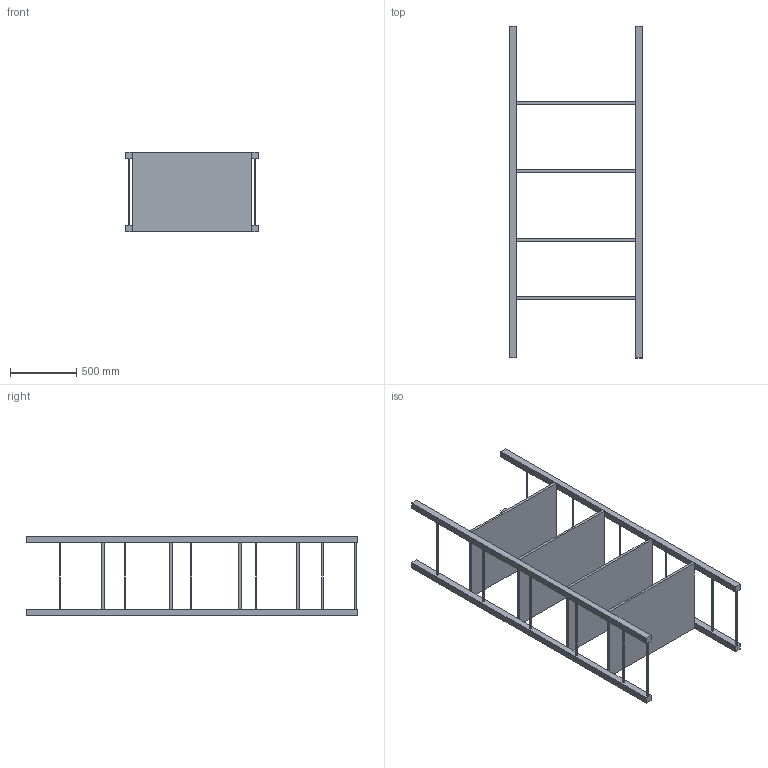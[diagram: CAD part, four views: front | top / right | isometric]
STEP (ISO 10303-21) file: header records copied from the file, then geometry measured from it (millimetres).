
FILE_DESCRIPTION(('unknown-description'),'2;1');
FILE_NAME('pseudofile.stp', '2024-10-11T10:59:06', ('author'),('organisation'), 'preprocessor_version','originating_system','authorization');
FILE_SCHEMA(('AUTOMOTIVE_DESIGN { 1 0 10303 214 1 1 1 1 }'));
Length unit declared in the file: millimetre
Products named in the file (46): Shelf; Regal.step; _box_solid
Assembly tree (45 placements, depth 4):
  Shelf
    Regal.step
      (unnamed)
        _box_solid
      (unnamed)
        _box_solid
      (unnamed)
        _box_solid
      (unnamed)
        _box_solid
      (unnamed)
        _box_solid
      (unnamed)
        _box_solid
      (unnamed)
        _box_solid
      (unnamed)
        _box_solid
      (unnamed)
        _box_solid
      (unnamed)
        _box_solid
      (unnamed)
        _box_solid
      (unnamed)
        _box_solid
      (unnamed)
        _box_solid
      (unnamed)
        _box_solid
      (unnamed)
        _box_solid
      (unnamed)
        _box_solid
      (unnamed)
        _box_solid
      (unnamed)
        _box_solid
      (unnamed)
        _box_solid
      (unnamed)
        _box_solid
      (unnamed)
        _box_solid
      (unnamed)
        _box_solid
Bounding box: 1000.03 x 2500 x 600.01 mm (x, y, z)
Volume: 68900375.9 mm3; surface area: 6862808.3 mm2
Topology: 22 solids, 22 shells, 132 faces, 264 edges, 176 vertices
Faces by surface type: plane 132
Entity records: 7800 total; most frequent: DIRECTION 1148, CARTESIAN_POINT 1146, LINE 792, VECTOR 792, ORIENTED_EDGE 528, PCURVE 528, DEFINITIONAL_REPRESENTATION 528, EDGE_CURVE 264
